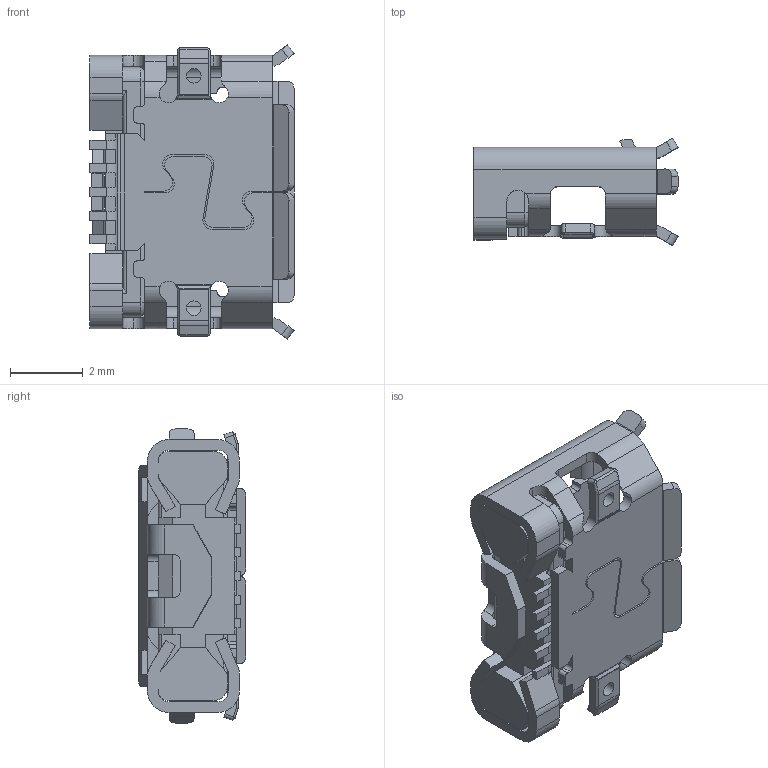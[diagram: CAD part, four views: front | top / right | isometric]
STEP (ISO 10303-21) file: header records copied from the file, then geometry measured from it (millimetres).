
FILE_DESCRIPTION(('STEP AP214'),'1');
FILE_NAME('zx62-b-5pa_33_.stp','2019-11-14T16:36:23',('TraceParts'),('TraceParts S.A.'),'Spatial InterOp 3D',' ',' ');
FILE_SCHEMA(('AUTOMOTIVE_DESIGN { 1 0 10303 214 1 1 1 1 }'));
Length unit declared in the file: millimetre
Products named in the file (1): zx62-b-5pa_33_
Bounding box: 5.6 x 2.95 x 8.07 mm (x, y, z)
Volume: 39.7 mm3; surface area: 241.4 mm2
Topology: 1 solids, 1 shells, 478 faces, 1426 edges, 920 vertices
Faces by surface type: plane 275, cylinder 188, cone 8, bspline 6, torus 1
Entity records: 21442 total; most frequent: CARTESIAN_POINT 4514, ORIENTED_EDGE 2852, DIRECTION 2703, EDGE_CURVE 1426, LINE 951, VECTOR 951, VERTEX_POINT 920, AXIS2_PLACEMENT_3D 876
